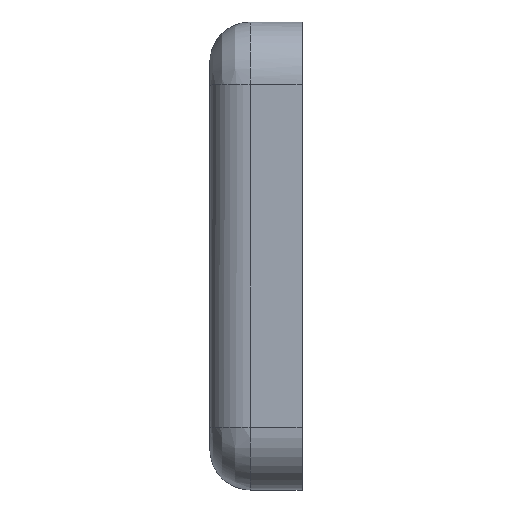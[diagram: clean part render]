
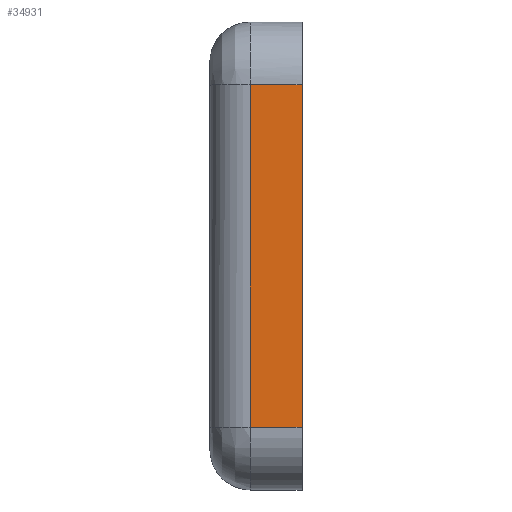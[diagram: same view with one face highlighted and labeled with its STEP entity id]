
A CAD part, left-side view. The second image highlights one B-rep face of the part: STEP entity #34931.
In plain terms, the highlighted planar face has unit normal (-1, 0, 0).
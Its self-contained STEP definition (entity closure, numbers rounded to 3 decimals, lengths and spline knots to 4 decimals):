
#605 = VERTEX_POINT ( 'NONE', #94432 ) ;
#2621 = EDGE_CURVE ( 'NONE', #72366, #46242, #66763, .T. ) ;
#6734 = ORIENTED_EDGE ( 'NONE', *, *, #23375, .F. ) ;
#6924 = VECTOR ( 'NONE', #95591, 39.3701 ) ;
#22549 = DIRECTION ( 'NONE',  ( 0., -1., 0. ) ) ;
#23375 = EDGE_CURVE ( 'NONE', #72366, #86733, #67602, .T. ) ;
#26860 = CARTESIAN_POINT ( 'NONE',  ( -8.3485, 1.2889, 4.2563 ) ) ;
#29124 = CARTESIAN_POINT ( 'NONE',  ( -8.3485, 0.5712, 4.2563 ) ) ;
#29316 = DIRECTION ( 'NONE',  ( 0., 0., -1. ) ) ;
#30426 = FACE_OUTER_BOUND ( 'NONE', #41632, .T. ) ;
#32870 = LINE ( 'NONE', #83866, #97514 ) ;
#34931 = ADVANCED_FACE ( 'NONE', ( #30426 ), #83674, .T. ) ;
#35516 = LINE ( 'NONE', #69625, #53773 ) ;
#39131 = CARTESIAN_POINT ( 'NONE',  ( -8.3485, 0.5712, 4.2563 ) ) ;
#41064 = CARTESIAN_POINT ( 'NONE',  ( -8.3485, 1.2889, -4.2528 ) ) ;
#41632 = EDGE_LOOP ( 'NONE', ( #6734, #67864, #82702, #57561 ) ) ;
#44811 = DIRECTION ( 'NONE',  ( 0., 0., 1. ) ) ;
#46242 = VERTEX_POINT ( 'NONE', #65650 ) ;
#46864 = VECTOR ( 'NONE', #62642, 39.3701 ) ;
#53773 = VECTOR ( 'NONE', #22549, 39.3701 ) ;
#57561 = ORIENTED_EDGE ( 'NONE', *, *, #93221, .F. ) ;
#60884 = EDGE_CURVE ( 'NONE', #46242, #605, #35516, .T. ) ;
#62642 = DIRECTION ( 'NONE',  ( 0., -1., 0. ) ) ;
#65650 = CARTESIAN_POINT ( 'NONE',  ( -8.3485, 1.2889, -4.2528 ) ) ;
#66763 = LINE ( 'NONE', #41064, #6924 ) ;
#67602 = LINE ( 'NONE', #39131, #46864 ) ;
#67864 = ORIENTED_EDGE ( 'NONE', *, *, #2621, .T. ) ;
#69625 = CARTESIAN_POINT ( 'NONE',  ( -8.3485, 0.5712, -4.2528 ) ) ;
#72366 = VERTEX_POINT ( 'NONE', #26860 ) ;
#75945 = AXIS2_PLACEMENT_3D ( 'NONE', #29124, #91510, #44811 ) ;
#82702 = ORIENTED_EDGE ( 'NONE', *, *, #60884, .T. ) ;
#82812 = CARTESIAN_POINT ( 'NONE',  ( -8.3485, 0., 4.2563 ) ) ;
#83674 = PLANE ( 'NONE',  #75945 ) ;
#83866 = CARTESIAN_POINT ( 'NONE',  ( -8.3485, 0., 4.2563 ) ) ;
#86733 = VERTEX_POINT ( 'NONE', #82812 ) ;
#91510 = DIRECTION ( 'NONE',  ( -1., 0., 0. ) ) ;
#93221 = EDGE_CURVE ( 'NONE', #86733, #605, #32870, .T. ) ;
#94432 = CARTESIAN_POINT ( 'NONE',  ( -8.3485, 0., -4.2528 ) ) ;
#95591 = DIRECTION ( 'NONE',  ( 0., 0., -1. ) ) ;
#97514 = VECTOR ( 'NONE', #29316, 39.3701 ) ;
